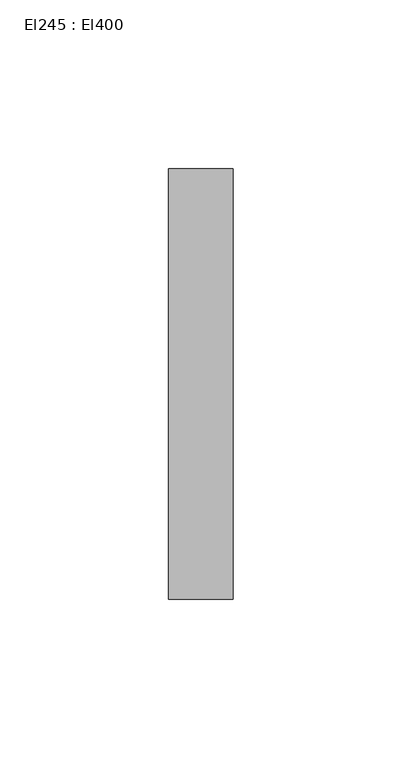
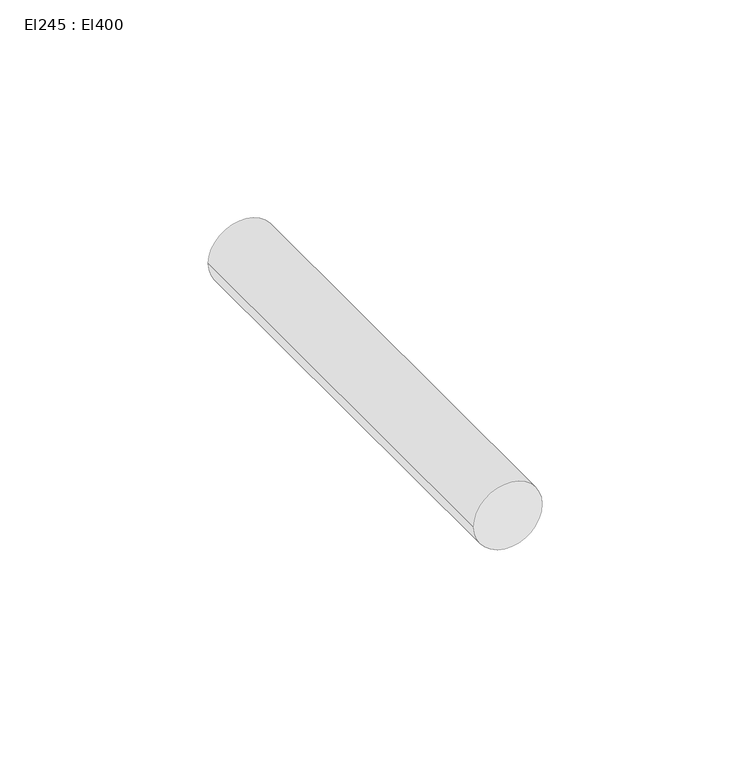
"""IFC4 building model written with IfcOpenShell, lengths in millimetres: cable carrier segment geometry, El245 : El400."""

from ifc_helpers import new_model, si_unit, point, frame, frame_2d, origin, place, context, project, spatial, circle_curve, trimmed, segment, composite_curve, outline, extrude, source, transform, mapped, element, save


def el245_el400_6b550e82(model_context):
    return source(origin(), model_context, "Body", "SweptSolid", [
        extrude(outline(composite_curve([segment(trimmed(circle_curve(frame_2d((2700.0, 5414.4746511)), 9.5), [point((2700.0, 5404.9746511))], [point((2700.0, 5423.9746511))], False, "CARTESIAN"), True, "CONTINUOUS"), segment(trimmed(circle_curve(frame_2d((2700.0, 5414.4746511)), 9.5), [point((2700.0, 5423.9746511))], [point((2700.0, 5404.9746511))], False, "CARTESIAN"), True, "CONTINUOUS")], self_intersect=False)), frame((0.0, 18658.8805745, 0.0), z_axis=(0.0, 1.0, 0.0), x_axis=(0.0, 0.0, 1.0)), (0.0, 0.0, 1.0), 127.263),
    ])


if __name__ == "__main__":
    model = new_model("IFC4")
    model_context = context("Model", 3, world=origin())
    ifc_project = project(units=[si_unit("LENGTHUNIT", "METRE", prefix="MILLI")], contexts=[model_context])
    site = spatial("IfcSite", under=ifc_project)
    building = spatial("IfcBuilding", under=site)
    placement = place(None, origin())
    el245_el400_shape = el245_el400_6b550e82(model_context)
    element("IfcCableCarrierSegment", 1, ObjectType="El245 : El400", at=placement, inside=building, context=model_context, shape_type="MappedRepresentation", body=[
        mapped(el245_el400_shape, transform((0.0, 0.0, 0.0), x_axis=(1.0, 0.0, 0.0), y_axis=(0.0, 1.0, 0.0), z_axis=(0.0, 0.0, 1.0))),
    ])
    save(model, "model.ifc")
